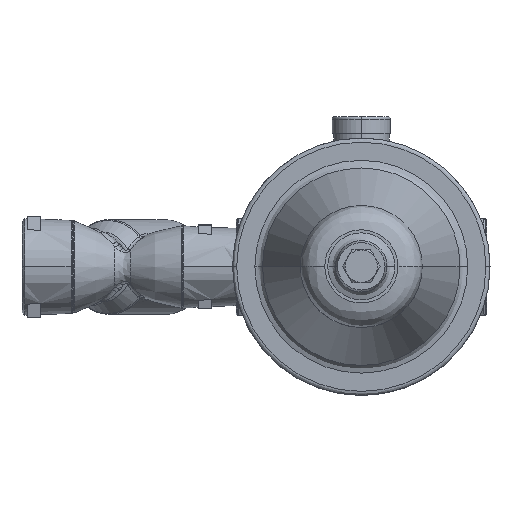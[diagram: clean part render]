
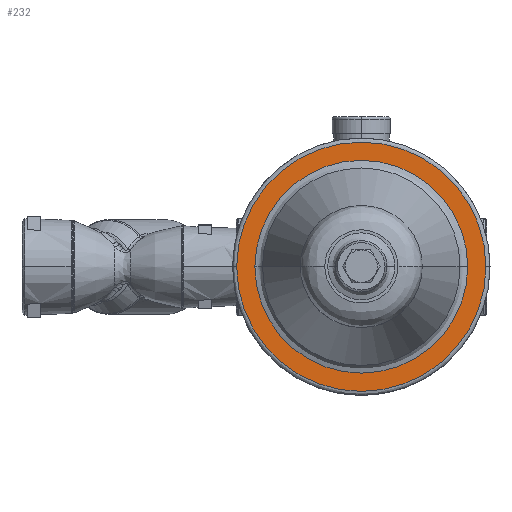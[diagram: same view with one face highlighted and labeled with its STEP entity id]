
A CAD part, top view. The second image highlights one B-rep face of the part: STEP entity #232.
In plain terms, the highlighted planar face has unit normal (0, 0, 1).
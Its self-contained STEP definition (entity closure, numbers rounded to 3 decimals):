
#232=ADVANCED_FACE('',(#1809,#1810),#1808,.T.);
#1808=PLANE('',#7028);
#1809=FACE_OUTER_BOUND('',#7029,.T.);
#1810=FACE_BOUND('',#7030,.T.);
#7025=CARTESIAN_POINT('',(-194.,-169.349,80.));
#7026=DIRECTION('',(0.,0.,1.));
#7027=DIRECTION('',(1.,0.,0.));
#7028=AXIS2_PLACEMENT_3D('',#7025,#7026,#7027);
#7029=EDGE_LOOP('',(#13583,#13584));
#7030=EDGE_LOOP('',(#13585,#13586));
#13583=ORIENTED_EDGE('',*,*,#15748,.T.);
#13584=ORIENTED_EDGE('',*,*,#15749,.T.);
#13585=ORIENTED_EDGE('',*,*,#15750,.T.);
#13586=ORIENTED_EDGE('',*,*,#15751,.T.);
#15748=EDGE_CURVE('',#19286,#19287,#19288,.T.);
#15749=EDGE_CURVE('',#19287,#19286,#19294,.T.);
#15750=EDGE_CURVE('',#19300,#19301,#19302,.T.);
#15751=EDGE_CURVE('',#19301,#19300,#19308,.T.);
#19286=VERTEX_POINT('',#26685);
#19287=VERTEX_POINT('',#26686);
#19288=CIRCLE('',#26690,92.);
#19294=CIRCLE('',#26694,92.);
#19300=VERTEX_POINT('',#26695);
#19301=VERTEX_POINT('',#26696);
#19302=CIRCLE('',#26700,78.555);
#19308=CIRCLE('',#26704,78.555);
#26685=CARTESIAN_POINT('',(92.,0.,80.));
#26686=CARTESIAN_POINT('',(-92.,0.,80.));
#26687=CARTESIAN_POINT('',(0.,0.,80.));
#26688=DIRECTION('',(0.,0.,1.));
#26689=DIRECTION('',(1.,0.,0.));
#26690=AXIS2_PLACEMENT_3D('',#26687,#26688,#26689);
#26691=CARTESIAN_POINT('',(0.,0.,80.));
#26692=DIRECTION('',(0.,0.,1.));
#26693=DIRECTION('',(1.,0.,0.));
#26694=AXIS2_PLACEMENT_3D('',#26691,#26692,#26693);
#26695=CARTESIAN_POINT('',(78.555,0.,80.));
#26696=CARTESIAN_POINT('',(-78.555,0.,80.));
#26697=CARTESIAN_POINT('',(0.,0.,80.));
#26698=DIRECTION('',(0.,0.,-1.));
#26699=DIRECTION('',(1.,0.,0.));
#26700=AXIS2_PLACEMENT_3D('',#26697,#26698,#26699);
#26701=CARTESIAN_POINT('',(0.,0.,80.));
#26702=DIRECTION('',(0.,0.,-1.));
#26703=DIRECTION('',(1.,0.,0.));
#26704=AXIS2_PLACEMENT_3D('',#26701,#26702,#26703);
